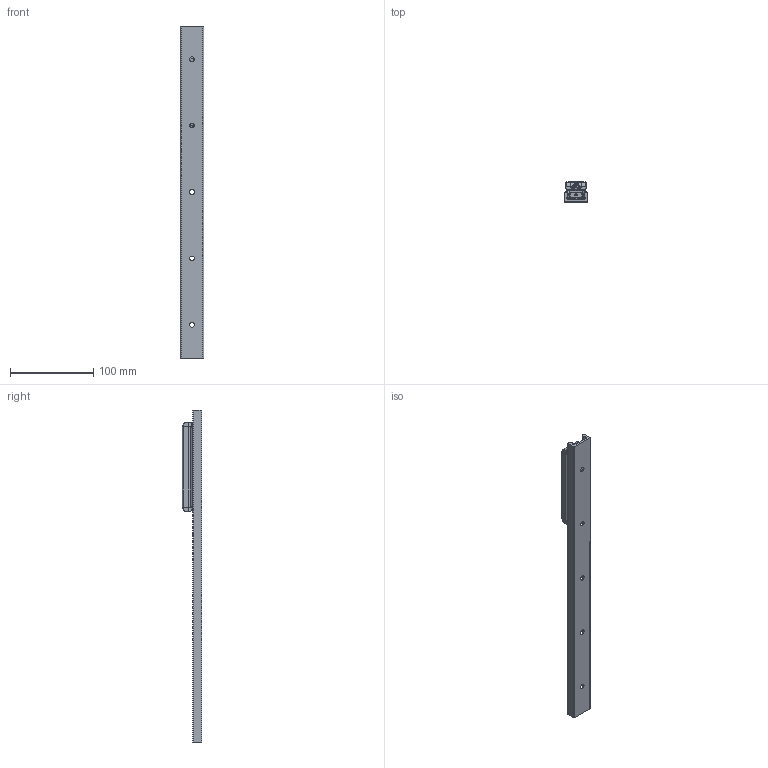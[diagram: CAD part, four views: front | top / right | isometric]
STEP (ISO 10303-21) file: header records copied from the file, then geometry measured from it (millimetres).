
FILE_DESCRIPTION( ( 'STEP AP214' ), '1' );
FILE_NAME( 'p:/temp/worker_4/temp/exporttempdir_4652_528_krI0p/format_0/TGV-00400_1_RV28G-3.stp', '2020-11-20T15:14:46', ( 'License CC BY-ND 4.0' ), ( 'CADENAS' ), ' ', 'PARTsolutions', ' ' );
FILE_SCHEMA( ( 'AUTOMOTIVE_DESIGN { 1 0 10303 214 1 1 1 1 }' ) );
Length unit declared in the file: millimetre
Products named in the file (6): TGV-00400/1/RV28G-3; _TGV28-0400-(3-1); _RV28G-3-slider; _RGNV28R; _RGAV28R; _WR28G-01
Assembly tree (7 placements, depth 2):
  TGV-00400/1/RV28G-3
    _TGV28-0400-(3-1)
    _RV28G-3-slider
    _RGNV28R  x2
    _RGAV28R
    _WR28G-01  x2
Bounding box: 28 x 24 x 400 mm (x, y, z)
Volume: 94249.6 mm3; surface area: 58075 mm2
Topology: 7 solids, 7 shells, 1022 faces, 2670 edges, 1744 vertices
Faces by surface type: plane 657, cylinder 285, cone 45, bspline 26, torus 9
Full cylindrical faces by diameter (mm): 1.27 x4, 2 x2, 2.5 x6, 4 x4, 4.134 x4, 4.2 x3, 5 x3, 5.5 x3, 5.75 x5, 7 x5, 7.5 x1, 8 x6, 10.8 x3, 17 x3, 20.75 x6
Entity records: 24401 total; most frequent: CARTESIAN_POINT 3915, DIRECTION 3250, ORIENTED_EDGE 3024, EDGE_CURVE 1512, AXIS2_PLACEMENT_3D 1230, VERTEX_POINT 1044, EDGE_LOOP 821, LINE 790
